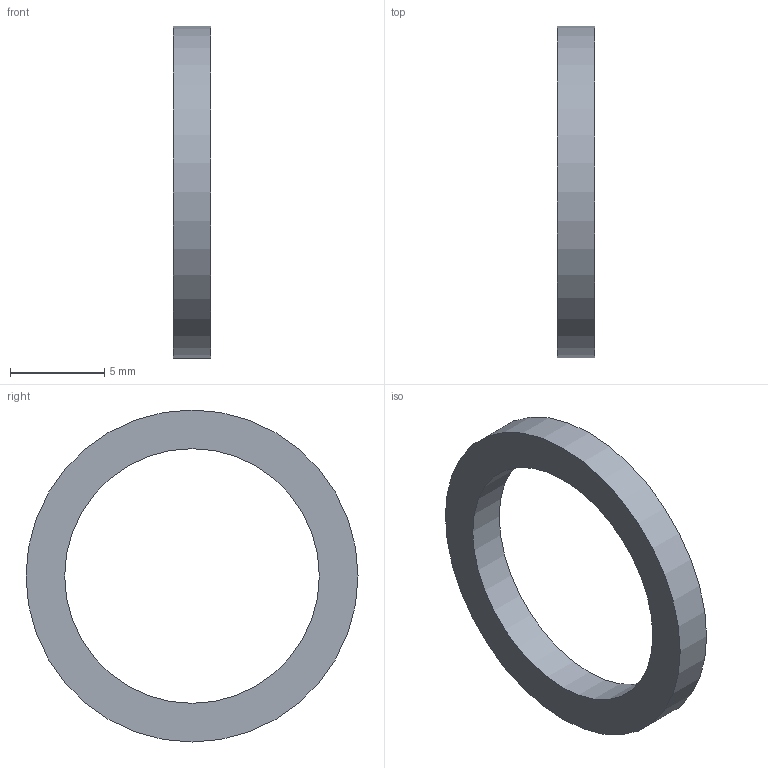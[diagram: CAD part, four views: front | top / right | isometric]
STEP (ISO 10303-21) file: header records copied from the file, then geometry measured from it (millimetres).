
FILE_DESCRIPTION(('Open CASCADE Model'),'2;1');
FILE_NAME('Open CASCADE Shape Model','2026-10-31T23:30:59',('Author'),( 'Open CASCADE'),'Open CASCADE STEP processor 7.9','Open CASCADE 7.9' ,'Unknown');
FILE_SCHEMA(('AUTOMOTIVE_DESIGN { 1 0 10303 214 1 1 1 1 }'));
Length unit declared in the file: millimetre
Products named in the file (1): Open CASCADE STEP translator 7.9 9
Bounding box: 1.98 x 17.6 x 17.6 mm (x, y, z)
Volume: 198.3 mm3; surface area: 393.7 mm2
Topology: 1 solids, 1 shells, 4 faces, 6 edges, 4 vertices
Faces by surface type: cylinder 2, plane 2
Full cylindrical faces by diameter (mm): 13.5 x1, 17.6 x1
Entity records: 186 total; most frequent: DIRECTION 32, CARTESIAN_POINT 27, ORIENTED_EDGE 12, PCURVE 12, DEFINITIONAL_REPRESENTATION 12, LINE 10, VECTOR 10, AXIS2_PLACEMENT_3D 9
